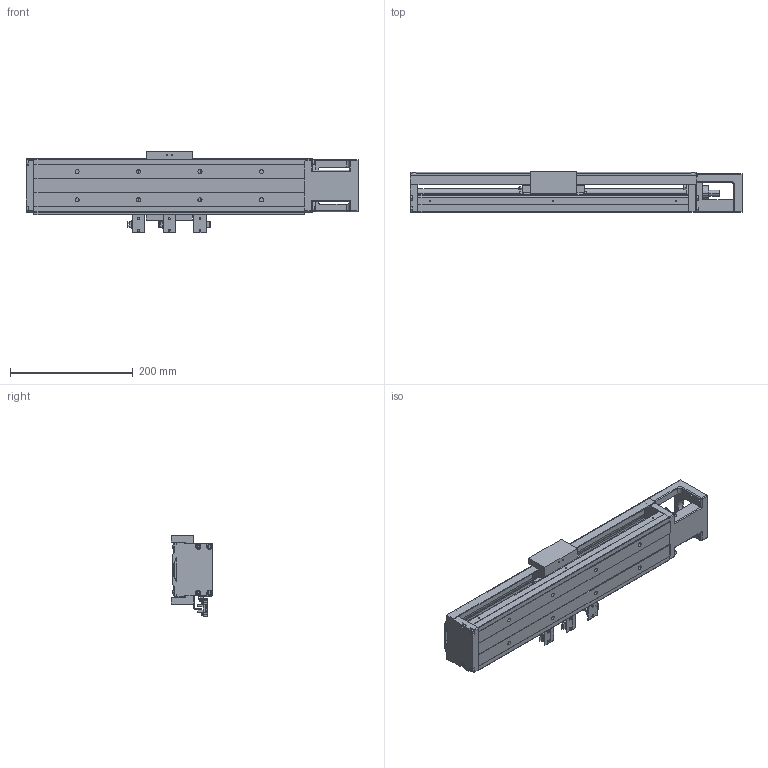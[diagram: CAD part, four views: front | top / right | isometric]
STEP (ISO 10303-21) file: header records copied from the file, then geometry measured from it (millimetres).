
FILE_DESCRIPTION (( 'STEP AP203' ), '1' );
FILE_NAME ('HKK86D20C-440A1-F0CS1.stp', '2021-11-29T07:47:08', ( '' ), ( '' ), 'SwSTEP 2.0', 'SolidWorks 2018', '' );
FILE_SCHEMA (( 'CONFIG_CONTROL_DESIGN' ));
Length unit declared in the file: millimetre
Products named in the file (1): HKK86D20C-440A1-F0CS1
Bounding box: 540 x 68 x 132.5 mm (x, y, z)
Volume: 1457138.3 mm3; surface area: 391981.7 mm2
Topology: 6 solids, 21 shells, 1418 faces, 3529 edges, 2224 vertices
Faces by surface type: plane 796, cylinder 439, cone 134, torus 32, sphere 9, bspline 8
Entity records: 42143 total; most frequent: CARTESIAN_POINT 8368, DIRECTION 6997, ORIENTED_EDGE 6934, EDGE_CURVE 3467, VECTOR 2341, LINE 2341, AXIS2_PLACEMENT_3D 2328, VERTEX_POINT 2220
